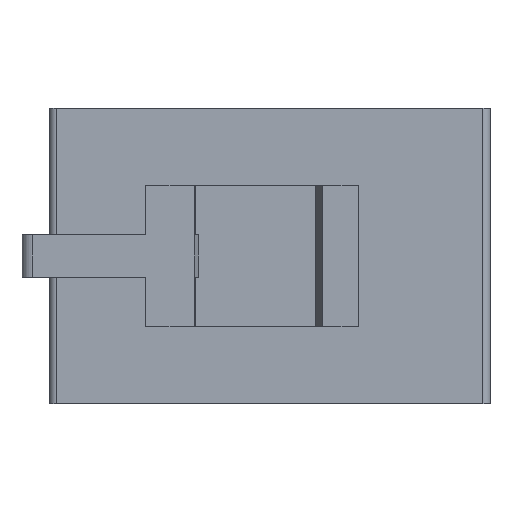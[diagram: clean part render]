
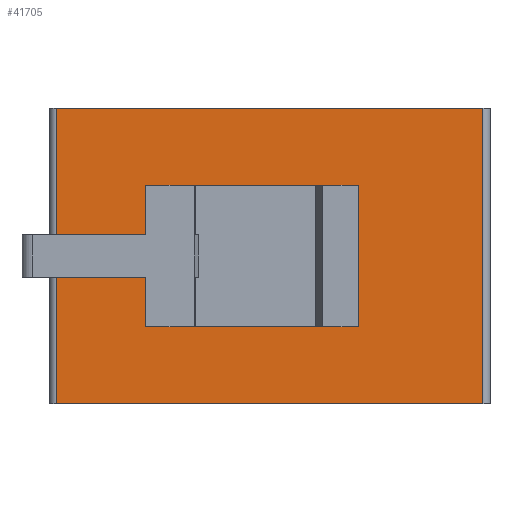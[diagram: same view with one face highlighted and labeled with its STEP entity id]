
A CAD part, front view. The second image highlights one B-rep face of the part: STEP entity #41705.
In plain terms, the highlighted planar face has unit normal (0, -1, 0).
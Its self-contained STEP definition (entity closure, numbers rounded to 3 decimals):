
#1292=DIRECTION('',(1.,0.,0.));
#1293=VECTOR('',#1292,60.);
#1294=CARTESIAN_POINT('',(-35.,0.,20.));
#1295=LINE('',#1294,#1293);
#1299=DIRECTION('',(-1.,0.,0.));
#1300=VECTOR('',#1299,60.);
#1301=CARTESIAN_POINT('',(25.,0.,-20.));
#1302=LINE('',#1301,#1300);
#1306=DIRECTION('',(0.,0.,1.));
#1307=VECTOR('',#1306,40.);
#1308=CARTESIAN_POINT('',(25.,0.,-20.));
#1309=LINE('',#1308,#1307);
#1313=DIRECTION('',(-1.,0.,0.));
#1314=VECTOR('',#1313,120.5);
#1315=CARTESIAN_POINT('',(60.25,0.,-41.75));
#1316=LINE('',#1315,#1314);
#1320=DIRECTION('',(0.,0.,1.));
#1321=VECTOR('',#1320,83.5);
#1322=CARTESIAN_POINT('',(-60.25,0.,-41.75));
#1323=LINE('',#1322,#1321);
#1327=DIRECTION('',(1.,0.,0.));
#1328=VECTOR('',#1327,120.5);
#1329=CARTESIAN_POINT('',(-60.25,0.,41.75));
#1330=LINE('',#1329,#1328);
#1607=DIRECTION('',(0.,0.,1.));
#1608=VECTOR('',#1607,40.);
#1609=CARTESIAN_POINT('',(-35.,0.,-20.));
#1610=LINE('',#1609,#1608);
#11156=DIRECTION('',(0.,0.,1.));
#11157=VECTOR('',#11156,83.5);
#11158=CARTESIAN_POINT('',(60.25,0.,-41.75));
#11159=LINE('',#11158,#11157);
#35051=CARTESIAN_POINT('',(60.25,0.,-41.75));
#35053=VERTEX_POINT('',#35051);
#35069=CARTESIAN_POINT('',(-60.25,0.,-41.75));
#35070=VERTEX_POINT('',#35069);
#35071=CARTESIAN_POINT('',(60.25,0.,41.75));
#35073=VERTEX_POINT('',#35071);
#35089=CARTESIAN_POINT('',(-60.25,0.,41.75));
#35090=VERTEX_POINT('',#35089);
#35115=CARTESIAN_POINT('',(25.,0.,20.));
#35116=VERTEX_POINT('',#35115);
#35117=CARTESIAN_POINT('',(25.,0.,-20.));
#35118=VERTEX_POINT('',#35117);
#35119=CARTESIAN_POINT('',(-35.,0.,-20.));
#35120=CARTESIAN_POINT('',(-35.,0.,20.));
#35121=VERTEX_POINT('',#35119);
#35122=VERTEX_POINT('',#35120);
#41681=CARTESIAN_POINT('',(25.,0.,-41.75));
#41682=DIRECTION('',(0.,-1.,0.));
#41683=DIRECTION('',(1.,0.,0.));
#41684=AXIS2_PLACEMENT_3D('',#41681,#41682,#41683);
#41685=PLANE('',#41684);
#41686=ORIENTED_EDGE('',*,*,#41224,.T.);
#41688=ORIENTED_EDGE('',*,*,#41687,.T.);
#41690=ORIENTED_EDGE('',*,*,#41689,.T.);
#41692=ORIENTED_EDGE('',*,*,#41691,.F.);
#41693=EDGE_LOOP('',(#41686,#41688,#41690,#41692));
#41694=FACE_OUTER_BOUND('',#41693,.F.);
#41696=ORIENTED_EDGE('',*,*,#41695,.F.);
#41698=ORIENTED_EDGE('',*,*,#41697,.F.);
#41700=ORIENTED_EDGE('',*,*,#41699,.F.);
#41702=ORIENTED_EDGE('',*,*,#41701,.T.);
#41703=EDGE_LOOP('',(#41696,#41698,#41700,#41702));
#41704=FACE_BOUND('',#41703,.F.);
#41705=ADVANCED_FACE('',(#41694,#41704),#41685,.T.);
#41224=EDGE_CURVE('',#35053,#35070,#1316,.T.);
#41687=EDGE_CURVE('',#35070,#35090,#1323,.T.);
#41689=EDGE_CURVE('',#35090,#35073,#1330,.T.);
#41691=EDGE_CURVE('',#35053,#35073,#11159,.T.);
#41695=EDGE_CURVE('',#35122,#35116,#1295,.T.);
#41697=EDGE_CURVE('',#35121,#35122,#1610,.T.);
#41699=EDGE_CURVE('',#35118,#35121,#1302,.T.);
#41701=EDGE_CURVE('',#35118,#35116,#1309,.T.);
